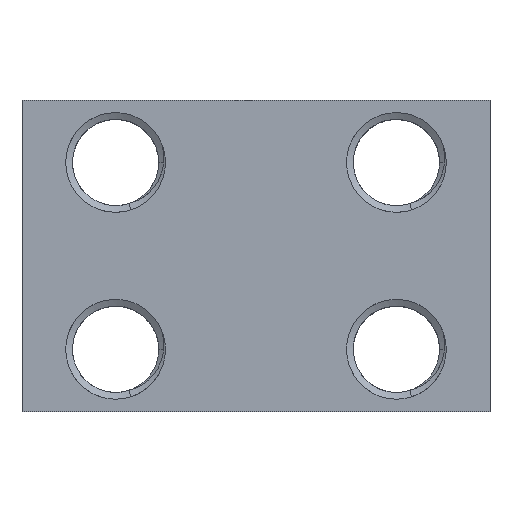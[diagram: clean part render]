
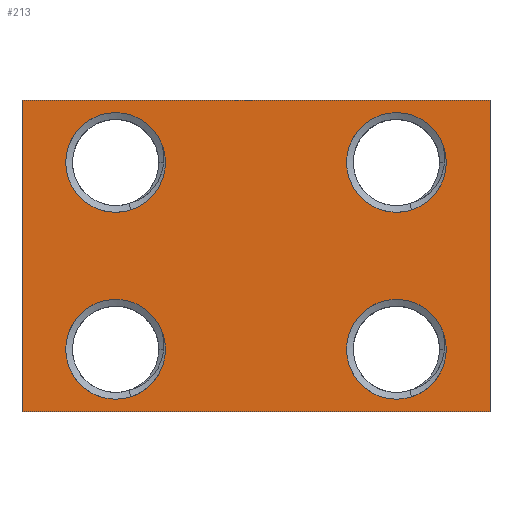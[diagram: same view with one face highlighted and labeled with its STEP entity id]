
A CAD part, top view. The second image highlights one B-rep face of the part: STEP entity #213.
In plain terms, the highlighted planar face has unit normal (0, 0, 1).
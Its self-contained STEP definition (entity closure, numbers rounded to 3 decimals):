
#24 = VERTEX_POINT('',#25);
#25 = CARTESIAN_POINT('',(-37.5,-24.95,12.8));
#32 = PLANE('',#33);
#33 = AXIS2_PLACEMENT_3D('',#34,#35,#36);
#34 = CARTESIAN_POINT('',(-37.5,-24.95,-12.8));
#35 = DIRECTION('',(1.,0.,0.));
#36 = DIRECTION('',(0.,0.,1.));
#44 = PLANE('',#45);
#45 = AXIS2_PLACEMENT_3D('',#46,#47,#48);
#46 = CARTESIAN_POINT('',(-37.5,-24.95,-12.8));
#47 = DIRECTION('',(0.,1.,0.));
#48 = DIRECTION('',(0.,0.,1.));
#85 = VERTEX_POINT('',#86);
#86 = CARTESIAN_POINT('',(-37.5,24.95,12.8));
#100 = PLANE('',#101);
#101 = AXIS2_PLACEMENT_3D('',#102,#103,#104);
#102 = CARTESIAN_POINT('',(-37.5,24.95,-12.8));
#103 = DIRECTION('',(0.,1.,0.));
#104 = DIRECTION('',(0.,0.,1.));
#112 = EDGE_CURVE('',#24,#85,#113,.T.);
#113 = SURFACE_CURVE('',#114,(#118,#125),.PCURVE_S1.);
#114 = LINE('',#115,#116);
#115 = CARTESIAN_POINT('',(-37.5,-24.95,12.8));
#116 = VECTOR('',#117,1.);
#117 = DIRECTION('',(0.,1.,0.));
#118 = PCURVE('',#32,#119);
#119 = DEFINITIONAL_REPRESENTATION('',(#120),#124);
#120 = LINE('',#121,#122);
#121 = CARTESIAN_POINT('',(25.6,0.));
#122 = VECTOR('',#123,1.);
#123 = DIRECTION('',(0.,-1.));
#124 = ( GEOMETRIC_REPRESENTATION_CONTEXT(2) 
PARAMETRIC_REPRESENTATION_CONTEXT() REPRESENTATION_CONTEXT('2D SPACE',''
  ) );
#125 = PCURVE('',#126,#131);
#126 = PLANE('',#127);
#127 = AXIS2_PLACEMENT_3D('',#128,#129,#130);
#128 = CARTESIAN_POINT('',(-37.5,-24.95,12.8));
#129 = DIRECTION('',(0.,0.,1.));
#130 = DIRECTION('',(1.,0.,0.));
#131 = DEFINITIONAL_REPRESENTATION('',(#132),#136);
#132 = LINE('',#133,#134);
#133 = CARTESIAN_POINT('',(0.,0.));
#134 = VECTOR('',#135,1.);
#135 = DIRECTION('',(0.,1.));
#136 = ( GEOMETRIC_REPRESENTATION_CONTEXT(2) 
PARAMETRIC_REPRESENTATION_CONTEXT() REPRESENTATION_CONTEXT('2D SPACE',''
  ) );
#165 = EDGE_CURVE('',#24,#166,#168,.T.);
#166 = VERTEX_POINT('',#167);
#167 = CARTESIAN_POINT('',(37.5,-24.95,12.8));
#168 = SURFACE_CURVE('',#169,(#173,#180),.PCURVE_S1.);
#169 = LINE('',#170,#171);
#170 = CARTESIAN_POINT('',(-37.5,-24.95,12.8));
#171 = VECTOR('',#172,1.);
#172 = DIRECTION('',(1.,0.,0.));
#173 = PCURVE('',#44,#174);
#174 = DEFINITIONAL_REPRESENTATION('',(#175),#179);
#175 = LINE('',#176,#177);
#176 = CARTESIAN_POINT('',(25.6,0.));
#177 = VECTOR('',#178,1.);
#178 = DIRECTION('',(0.,1.));
#179 = ( GEOMETRIC_REPRESENTATION_CONTEXT(2) 
PARAMETRIC_REPRESENTATION_CONTEXT() REPRESENTATION_CONTEXT('2D SPACE',''
  ) );
#180 = PCURVE('',#126,#181);
#181 = DEFINITIONAL_REPRESENTATION('',(#182),#186);
#182 = LINE('',#183,#184);
#183 = CARTESIAN_POINT('',(0.,0.));
#184 = VECTOR('',#185,1.);
#185 = DIRECTION('',(1.,0.));
#186 = ( GEOMETRIC_REPRESENTATION_CONTEXT(2) 
PARAMETRIC_REPRESENTATION_CONTEXT() REPRESENTATION_CONTEXT('2D SPACE',''
  ) );
#202 = PLANE('',#203);
#203 = AXIS2_PLACEMENT_3D('',#204,#205,#206);
#204 = CARTESIAN_POINT('',(37.5,-24.95,-12.8));
#205 = DIRECTION('',(1.,0.,0.));
#206 = DIRECTION('',(0.,0.,1.));
#213 = ADVANCED_FACE('',(#214,#262,#293,#324,#355),#126,.T.);
#214 = FACE_BOUND('',#215,.T.);
#215 = EDGE_LOOP('',(#216,#217,#218,#241));
#216 = ORIENTED_EDGE('',*,*,#112,.F.);
#217 = ORIENTED_EDGE('',*,*,#165,.T.);
#218 = ORIENTED_EDGE('',*,*,#219,.T.);
#219 = EDGE_CURVE('',#166,#220,#222,.T.);
#220 = VERTEX_POINT('',#221);
#221 = CARTESIAN_POINT('',(37.5,24.95,12.8));
#222 = SURFACE_CURVE('',#223,(#227,#234),.PCURVE_S1.);
#223 = LINE('',#224,#225);
#224 = CARTESIAN_POINT('',(37.5,-24.95,12.8));
#225 = VECTOR('',#226,1.);
#226 = DIRECTION('',(0.,1.,0.));
#227 = PCURVE('',#126,#228);
#228 = DEFINITIONAL_REPRESENTATION('',(#229),#233);
#229 = LINE('',#230,#231);
#230 = CARTESIAN_POINT('',(75.,0.));
#231 = VECTOR('',#232,1.);
#232 = DIRECTION('',(0.,1.));
#233 = ( GEOMETRIC_REPRESENTATION_CONTEXT(2) 
PARAMETRIC_REPRESENTATION_CONTEXT() REPRESENTATION_CONTEXT('2D SPACE',''
  ) );
#234 = PCURVE('',#202,#235);
#235 = DEFINITIONAL_REPRESENTATION('',(#236),#240);
#236 = LINE('',#237,#238);
#237 = CARTESIAN_POINT('',(25.6,0.));
#238 = VECTOR('',#239,1.);
#239 = DIRECTION('',(0.,-1.));
#240 = ( GEOMETRIC_REPRESENTATION_CONTEXT(2) 
PARAMETRIC_REPRESENTATION_CONTEXT() REPRESENTATION_CONTEXT('2D SPACE',''
  ) );
#241 = ORIENTED_EDGE('',*,*,#242,.F.);
#242 = EDGE_CURVE('',#85,#220,#243,.T.);
#243 = SURFACE_CURVE('',#244,(#248,#255),.PCURVE_S1.);
#244 = LINE('',#245,#246);
#245 = CARTESIAN_POINT('',(-37.5,24.95,12.8));
#246 = VECTOR('',#247,1.);
#247 = DIRECTION('',(1.,0.,0.));
#248 = PCURVE('',#126,#249);
#249 = DEFINITIONAL_REPRESENTATION('',(#250),#254);
#250 = LINE('',#251,#252);
#251 = CARTESIAN_POINT('',(0.,49.9));
#252 = VECTOR('',#253,1.);
#253 = DIRECTION('',(1.,0.));
#254 = ( GEOMETRIC_REPRESENTATION_CONTEXT(2) 
PARAMETRIC_REPRESENTATION_CONTEXT() REPRESENTATION_CONTEXT('2D SPACE',''
  ) );
#255 = PCURVE('',#100,#256);
#256 = DEFINITIONAL_REPRESENTATION('',(#257),#261);
#257 = LINE('',#258,#259);
#258 = CARTESIAN_POINT('',(25.6,0.));
#259 = VECTOR('',#260,1.);
#260 = DIRECTION('',(0.,1.));
#261 = ( GEOMETRIC_REPRESENTATION_CONTEXT(2) 
PARAMETRIC_REPRESENTATION_CONTEXT() REPRESENTATION_CONTEXT('2D SPACE',''
  ) );
#262 = FACE_BOUND('',#263,.T.);
#263 = EDGE_LOOP('',(#264));
#264 = ORIENTED_EDGE('',*,*,#265,.F.);
#265 = EDGE_CURVE('',#266,#266,#268,.T.);
#266 = VERTEX_POINT('',#267);
#267 = CARTESIAN_POINT('',(-14.5,-14.97,12.8));
#268 = SURFACE_CURVE('',#269,(#274,#281),.PCURVE_S1.);
#269 = CIRCLE('',#270,8.);
#270 = AXIS2_PLACEMENT_3D('',#271,#272,#273);
#271 = CARTESIAN_POINT('',(-22.5,-14.97,12.8));
#272 = DIRECTION('',(0.,0.,1.));
#273 = DIRECTION('',(1.,0.,0.));
#274 = PCURVE('',#126,#275);
#275 = DEFINITIONAL_REPRESENTATION('',(#276),#280);
#276 = CIRCLE('',#277,8.);
#277 = AXIS2_PLACEMENT_2D('',#278,#279);
#278 = CARTESIAN_POINT('',(15.,9.98));
#279 = DIRECTION('',(1.,0.));
#280 = ( GEOMETRIC_REPRESENTATION_CONTEXT(2) 
PARAMETRIC_REPRESENTATION_CONTEXT() REPRESENTATION_CONTEXT('2D SPACE',''
  ) );
#281 = PCURVE('',#282,#287);
#282 = CYLINDRICAL_SURFACE('',#283,8.);
#283 = AXIS2_PLACEMENT_3D('',#284,#285,#286);
#284 = CARTESIAN_POINT('',(-22.5,-14.97,-12.8));
#285 = DIRECTION('',(0.,0.,1.));
#286 = DIRECTION('',(1.,0.,0.));
#287 = DEFINITIONAL_REPRESENTATION('',(#288),#292);
#288 = LINE('',#289,#290);
#289 = CARTESIAN_POINT('',(0.,25.6));
#290 = VECTOR('',#291,1.);
#291 = DIRECTION('',(1.,0.));
#292 = ( GEOMETRIC_REPRESENTATION_CONTEXT(2) 
PARAMETRIC_REPRESENTATION_CONTEXT() REPRESENTATION_CONTEXT('2D SPACE',''
  ) );
#293 = FACE_BOUND('',#294,.T.);
#294 = EDGE_LOOP('',(#295));
#295 = ORIENTED_EDGE('',*,*,#296,.F.);
#296 = EDGE_CURVE('',#297,#297,#299,.T.);
#297 = VERTEX_POINT('',#298);
#298 = CARTESIAN_POINT('',(30.5,-14.97,12.8));
#299 = SURFACE_CURVE('',#300,(#305,#312),.PCURVE_S1.);
#300 = CIRCLE('',#301,8.);
#301 = AXIS2_PLACEMENT_3D('',#302,#303,#304);
#302 = CARTESIAN_POINT('',(22.5,-14.97,12.8));
#303 = DIRECTION('',(0.,0.,1.));
#304 = DIRECTION('',(1.,0.,0.));
#305 = PCURVE('',#126,#306);
#306 = DEFINITIONAL_REPRESENTATION('',(#307),#311);
#307 = CIRCLE('',#308,8.);
#308 = AXIS2_PLACEMENT_2D('',#309,#310);
#309 = CARTESIAN_POINT('',(60.,9.98));
#310 = DIRECTION('',(1.,0.));
#311 = ( GEOMETRIC_REPRESENTATION_CONTEXT(2) 
PARAMETRIC_REPRESENTATION_CONTEXT() REPRESENTATION_CONTEXT('2D SPACE',''
  ) );
#312 = PCURVE('',#313,#318);
#313 = CYLINDRICAL_SURFACE('',#314,8.);
#314 = AXIS2_PLACEMENT_3D('',#315,#316,#317);
#315 = CARTESIAN_POINT('',(22.5,-14.97,-12.8));
#316 = DIRECTION('',(0.,0.,1.));
#317 = DIRECTION('',(1.,0.,0.));
#318 = DEFINITIONAL_REPRESENTATION('',(#319),#323);
#319 = LINE('',#320,#321);
#320 = CARTESIAN_POINT('',(0.,25.6));
#321 = VECTOR('',#322,1.);
#322 = DIRECTION('',(1.,0.));
#323 = ( GEOMETRIC_REPRESENTATION_CONTEXT(2) 
PARAMETRIC_REPRESENTATION_CONTEXT() REPRESENTATION_CONTEXT('2D SPACE',''
  ) );
#324 = FACE_BOUND('',#325,.T.);
#325 = EDGE_LOOP('',(#326));
#326 = ORIENTED_EDGE('',*,*,#327,.F.);
#327 = EDGE_CURVE('',#328,#328,#330,.T.);
#328 = VERTEX_POINT('',#329);
#329 = CARTESIAN_POINT('',(-14.5,14.97,12.8));
#330 = SURFACE_CURVE('',#331,(#336,#343),.PCURVE_S1.);
#331 = CIRCLE('',#332,8.);
#332 = AXIS2_PLACEMENT_3D('',#333,#334,#335);
#333 = CARTESIAN_POINT('',(-22.5,14.97,12.8));
#334 = DIRECTION('',(0.,0.,1.));
#335 = DIRECTION('',(1.,0.,0.));
#336 = PCURVE('',#126,#337);
#337 = DEFINITIONAL_REPRESENTATION('',(#338),#342);
#338 = CIRCLE('',#339,8.);
#339 = AXIS2_PLACEMENT_2D('',#340,#341);
#340 = CARTESIAN_POINT('',(15.,39.92));
#341 = DIRECTION('',(1.,0.));
#342 = ( GEOMETRIC_REPRESENTATION_CONTEXT(2) 
PARAMETRIC_REPRESENTATION_CONTEXT() REPRESENTATION_CONTEXT('2D SPACE',''
  ) );
#343 = PCURVE('',#344,#349);
#344 = CYLINDRICAL_SURFACE('',#345,8.);
#345 = AXIS2_PLACEMENT_3D('',#346,#347,#348);
#346 = CARTESIAN_POINT('',(-22.5,14.97,-12.8));
#347 = DIRECTION('',(0.,0.,1.));
#348 = DIRECTION('',(1.,0.,0.));
#349 = DEFINITIONAL_REPRESENTATION('',(#350),#354);
#350 = LINE('',#351,#352);
#351 = CARTESIAN_POINT('',(0.,25.6));
#352 = VECTOR('',#353,1.);
#353 = DIRECTION('',(1.,0.));
#354 = ( GEOMETRIC_REPRESENTATION_CONTEXT(2) 
PARAMETRIC_REPRESENTATION_CONTEXT() REPRESENTATION_CONTEXT('2D SPACE',''
  ) );
#355 = FACE_BOUND('',#356,.T.);
#356 = EDGE_LOOP('',(#357));
#357 = ORIENTED_EDGE('',*,*,#358,.F.);
#358 = EDGE_CURVE('',#359,#359,#361,.T.);
#359 = VERTEX_POINT('',#360);
#360 = CARTESIAN_POINT('',(30.5,14.97,12.8));
#361 = SURFACE_CURVE('',#362,(#367,#374),.PCURVE_S1.);
#362 = CIRCLE('',#363,8.);
#363 = AXIS2_PLACEMENT_3D('',#364,#365,#366);
#364 = CARTESIAN_POINT('',(22.5,14.97,12.8));
#365 = DIRECTION('',(0.,0.,1.));
#366 = DIRECTION('',(1.,0.,0.));
#367 = PCURVE('',#126,#368);
#368 = DEFINITIONAL_REPRESENTATION('',(#369),#373);
#369 = CIRCLE('',#370,8.);
#370 = AXIS2_PLACEMENT_2D('',#371,#372);
#371 = CARTESIAN_POINT('',(60.,39.92));
#372 = DIRECTION('',(1.,0.));
#373 = ( GEOMETRIC_REPRESENTATION_CONTEXT(2) 
PARAMETRIC_REPRESENTATION_CONTEXT() REPRESENTATION_CONTEXT('2D SPACE',''
  ) );
#374 = PCURVE('',#375,#380);
#375 = CYLINDRICAL_SURFACE('',#376,8.);
#376 = AXIS2_PLACEMENT_3D('',#377,#378,#379);
#377 = CARTESIAN_POINT('',(22.5,14.97,-12.8));
#378 = DIRECTION('',(0.,0.,1.));
#379 = DIRECTION('',(1.,0.,0.));
#380 = DEFINITIONAL_REPRESENTATION('',(#381),#385);
#381 = LINE('',#382,#383);
#382 = CARTESIAN_POINT('',(0.,25.6));
#383 = VECTOR('',#384,1.);
#384 = DIRECTION('',(1.,0.));
#385 = ( GEOMETRIC_REPRESENTATION_CONTEXT(2) 
PARAMETRIC_REPRESENTATION_CONTEXT() REPRESENTATION_CONTEXT('2D SPACE',''
  ) );
